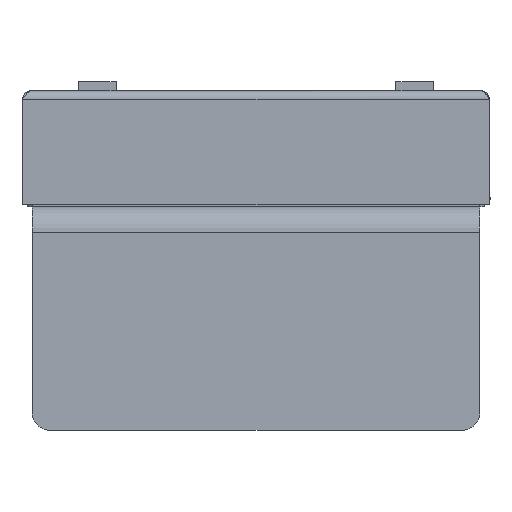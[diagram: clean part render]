
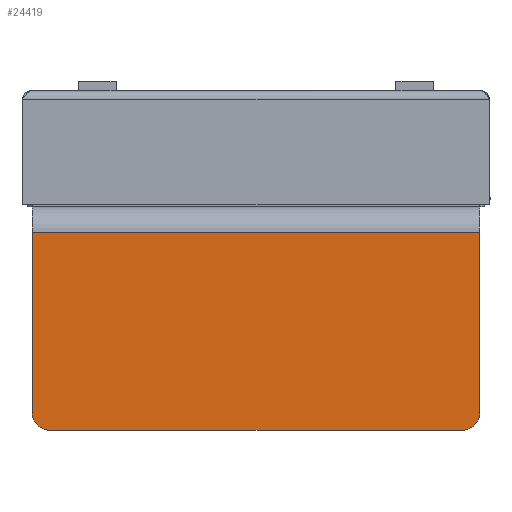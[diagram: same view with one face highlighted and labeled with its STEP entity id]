
A CAD part, front view. The second image highlights one B-rep face of the part: STEP entity #24419.
In plain terms, the highlighted planar face has unit normal (0, -1, 0).
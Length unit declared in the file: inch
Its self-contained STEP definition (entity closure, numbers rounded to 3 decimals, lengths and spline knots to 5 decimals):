
#2366 = VERTEX_POINT ( 'NONE', #28900 ) ;
#3165 = DIRECTION ( 'NONE',  ( 0., 0., 1. ) ) ;
#3956 = EDGE_CURVE ( 'NONE', #36487, #2366, #45667, .T. ) ;
#5873 = DIRECTION ( 'NONE',  ( 0., -1., 0. ) ) ;
#9864 = AXIS2_PLACEMENT_3D ( 'NONE', #44259, #26859, #68135 ) ;
#14628 = CARTESIAN_POINT ( 'NONE',  ( -3., -6.125, -1.898 ) ) ;
#14802 = LINE ( 'NONE', #24058, #72378 ) ;
#16927 = DIRECTION ( 'NONE',  ( 1., 0., 0. ) ) ;
#17075 = DIRECTION ( 'NONE',  ( 1., 0., 0. ) ) ;
#17092 = LINE ( 'NONE', #74795, #46807 ) ;
#17478 = EDGE_LOOP ( 'NONE', ( #28753, #46727, #70452, #38399, #28842, #30565 ) ) ;
#18879 = CARTESIAN_POINT ( 'NONE',  ( 2.75, -6.125, -4.55 ) ) ;
#19896 = EDGE_CURVE ( 'NONE', #2366, #39924, #14802, .T. ) ;
#20977 = CARTESIAN_POINT ( 'NONE',  ( 3., -6.125, -1.55 ) ) ;
#21867 = CARTESIAN_POINT ( 'NONE',  ( -2.75, -6.125, -4.3 ) ) ;
#22164 = AXIS2_PLACEMENT_3D ( 'NONE', #21867, #27848, #16927 ) ;
#24058 = CARTESIAN_POINT ( 'NONE',  ( -3., -6.125, -4.55 ) ) ;
#24419 = ADVANCED_FACE ( 'NONE', ( #59792 ), #49743, .F. ) ;
#24884 = VERTEX_POINT ( 'NONE', #63776 ) ;
#26859 = DIRECTION ( 'NONE',  ( 0., 1., 0. ) ) ;
#27406 = CARTESIAN_POINT ( 'NONE',  ( -3., -6.125, -4.3 ) ) ;
#27848 = DIRECTION ( 'NONE',  ( 0., -1., 0. ) ) ;
#28753 = ORIENTED_EDGE ( 'NONE', *, *, #19896, .T. ) ;
#28842 = ORIENTED_EDGE ( 'NONE', *, *, #60036, .F. ) ;
#28900 = CARTESIAN_POINT ( 'NONE',  ( -2.75, -6.125, -4.55 ) ) ;
#30394 = VECTOR ( 'NONE', #57044, 39.37008 ) ;
#30565 = ORIENTED_EDGE ( 'NONE', *, *, #3956, .T. ) ;
#36227 = VERTEX_POINT ( 'NONE', #51978 ) ;
#36487 = VERTEX_POINT ( 'NONE', #27406 ) ;
#37531 = EDGE_CURVE ( 'NONE', #39924, #36227, #44600, .T. ) ;
#38399 = ORIENTED_EDGE ( 'NONE', *, *, #57901, .T. ) ;
#39924 = VERTEX_POINT ( 'NONE', #18879 ) ;
#44259 = CARTESIAN_POINT ( 'NONE',  ( -3., -6.125, -1.55 ) ) ;
#44600 = CIRCLE ( 'NONE', #48147, 0.25 ) ;
#45667 = CIRCLE ( 'NONE', #22164, 0.25 ) ;
#46727 = ORIENTED_EDGE ( 'NONE', *, *, #37531, .T. ) ;
#46807 = VECTOR ( 'NONE', #3165, 39.37008 ) ;
#47065 = LINE ( 'NONE', #20977, #30394 ) ;
#48147 = AXIS2_PLACEMENT_3D ( 'NONE', #71299, #5873, #17075 ) ;
#49743 = PLANE ( 'NONE',  #9864 ) ;
#51978 = CARTESIAN_POINT ( 'NONE',  ( 3., -6.125, -4.3 ) ) ;
#54194 = VECTOR ( 'NONE', #73792, 39.37008 ) ;
#57044 = DIRECTION ( 'NONE',  ( 0., 0., 1. ) ) ;
#57901 = EDGE_CURVE ( 'NONE', #24884, #65242, #70000, .T. ) ;
#59792 = FACE_OUTER_BOUND ( 'NONE', #17478, .T. ) ;
#60036 = EDGE_CURVE ( 'NONE', #36487, #65242, #17092, .T. ) ;
#61854 = CARTESIAN_POINT ( 'NONE',  ( 3., -6.125, -1.898 ) ) ;
#63776 = CARTESIAN_POINT ( 'NONE',  ( 3., -6.125, -1.898 ) ) ;
#65242 = VERTEX_POINT ( 'NONE', #14628 ) ;
#67877 = EDGE_CURVE ( 'NONE', #36227, #24884, #47065, .T. ) ;
#68135 = DIRECTION ( 'NONE',  ( 1., 0., 0. ) ) ;
#70000 = LINE ( 'NONE', #61854, #54194 ) ;
#70452 = ORIENTED_EDGE ( 'NONE', *, *, #67877, .T. ) ;
#70527 = DIRECTION ( 'NONE',  ( 1., 0., 0. ) ) ;
#71299 = CARTESIAN_POINT ( 'NONE',  ( 2.75, -6.125, -4.3 ) ) ;
#72378 = VECTOR ( 'NONE', #70527, 39.37008 ) ;
#73792 = DIRECTION ( 'NONE',  ( -1., 0., 0. ) ) ;
#74795 = CARTESIAN_POINT ( 'NONE',  ( -3., -6.125, -1.55 ) ) ;
